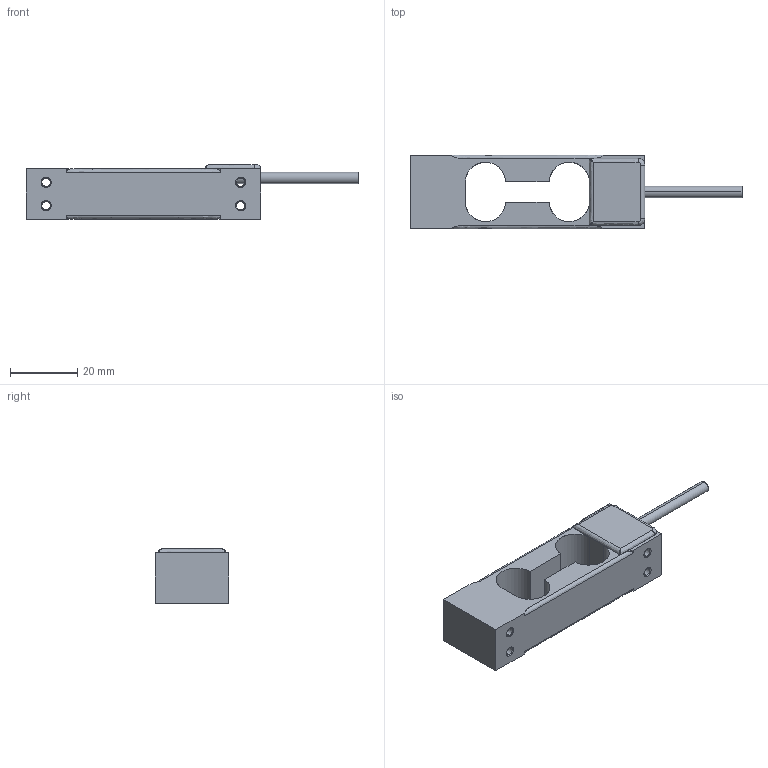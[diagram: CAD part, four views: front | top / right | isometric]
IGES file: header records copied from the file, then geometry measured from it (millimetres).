
Start section: SolidWorks IGES file using analytic representation for surfaces
Global section: file name: C:\Users\nasc01\Desktop\Assemblies for Conversion\Load_Cell_HISPL\Load_Cell_HISPL_3D\Load_Cell_HISPL.IGS; native system: SolidWorks 2013; preprocessor: SolidWorks 2013; author: nasc01; date: 141007.165453; units: millimetre
Bounding box: 99 x 22 x 16.2 mm (x, y, z)
Surface area: 7646.4 mm2 (no closed solid volume)
Topology: 0 solids, 0 shells, 77 faces, 1058 edges, 1056 vertices
Faces by surface type: revolution 57, bspline 20
